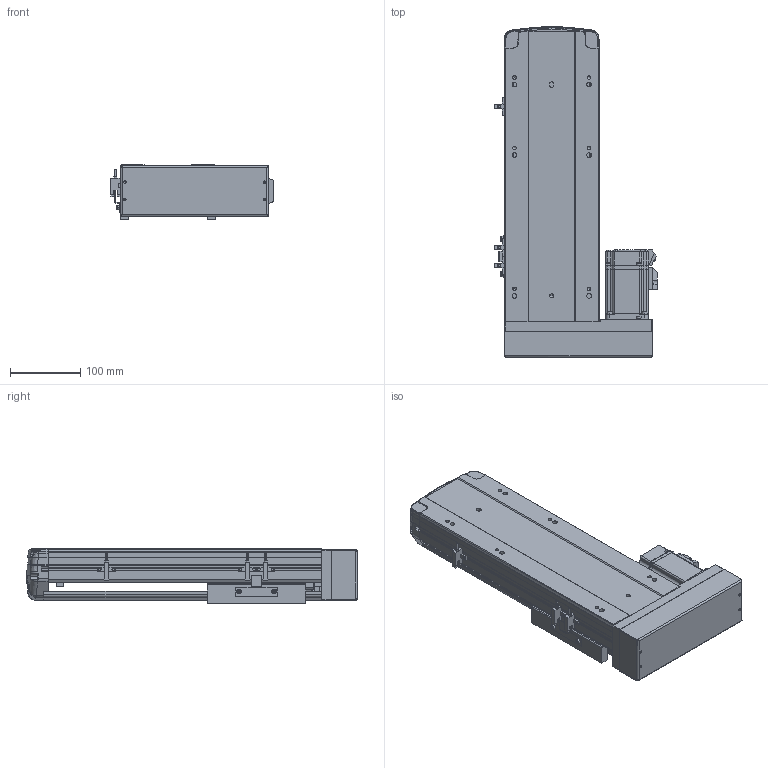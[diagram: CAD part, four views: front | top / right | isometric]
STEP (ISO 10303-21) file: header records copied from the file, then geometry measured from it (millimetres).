
FILE_DESCRIPTION (( 'STEP AP203' ), '1' );
FILE_NAME ('20.STEP', '2022-07-01T09:25:59', ( '' ), ( '' ), 'SwSTEP 2.0', 'SolidWorks 2016', '' );
FILE_SCHEMA (( 'CONFIG_CONTROL_DESIGN' ));
Length unit declared in the file: millimetre
Products named in the file (9): BTH14-BR-P20; 20; BTH14-11-BL-1; BTH14-BR-01; BTH14-BL-BM-BR-菁釱; BTH14-BR-HZ; BTH14-BR-04; BTH14-06-BR-T40(1)-1; 蚾饜极2-BR
Assembly tree (10 placements, depth 3):
  20
    BTH14-BL-BM-BR-菁釱
    BTH14-BR-01
    BTH14-BR-04  x3
    BTH14-BR-HZ
    BTH14-BR-P20
    蚾饜极2-BR
      BTH14-06-BR-T40(1)-1
      BTH14-11-BL-1
Bounding box: 231.15 x 469.21 x 78 mm (x, y, z)
Volume: 2395712.8 mm3; surface area: 596451.5 mm2
Topology: 13 solids, 13 shells, 1781 faces, 4824 edges, 3116 vertices
Faces by surface type: plane 959, cylinder 494, bspline 175, cone 102, torus 51
Entity records: 60655 total; most frequent: CARTESIAN_POINT 21015, ORIENTED_EDGE 8492, DIRECTION 7467, EDGE_CURVE 4246, VERTEX_POINT 2756, AXIS2_PLACEMENT_3D 2520, LINE 2427, VECTOR 2427
